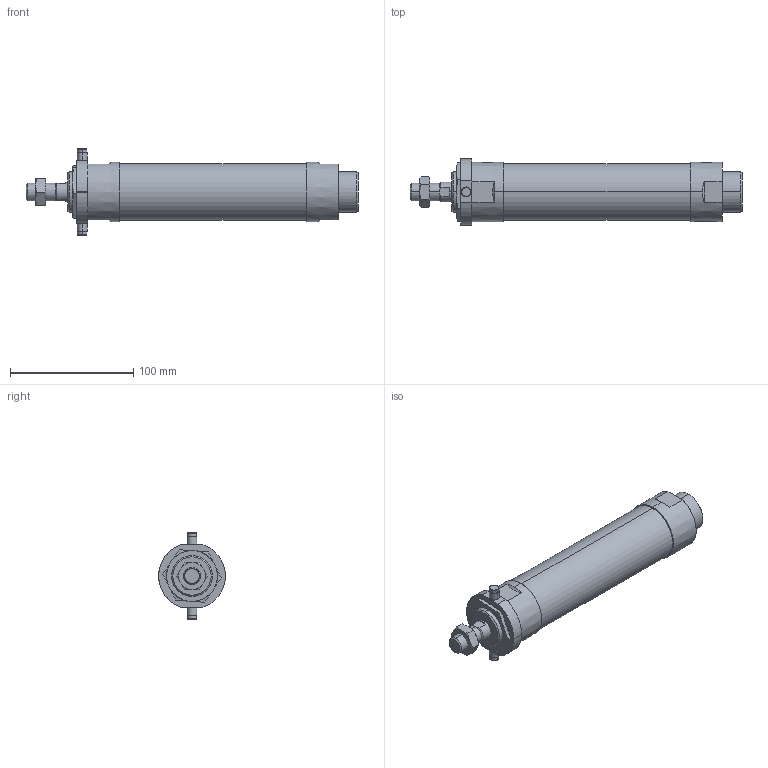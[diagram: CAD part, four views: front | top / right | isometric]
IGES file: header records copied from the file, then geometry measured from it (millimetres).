
Start section: SolidWorks IGES file using analytic representation for surfaces
Global section: file name: C:\Users\Toshiba\Desktop\J#2-40-100-T.IGS; native system: SolidWorks 2014; preprocessor: SolidWorks 2014; author: Toshiba; date: 160308.155852; units: millimetre
Bounding box: 269 x 54 x 70 mm (x, y, z)
Surface area: 48722.7 mm2 (no closed solid volume)
Topology: 0 solids, 0 shells, 121 faces, 2282 edges, 2278 vertices
Faces by surface type: bspline 63, revolution 58
